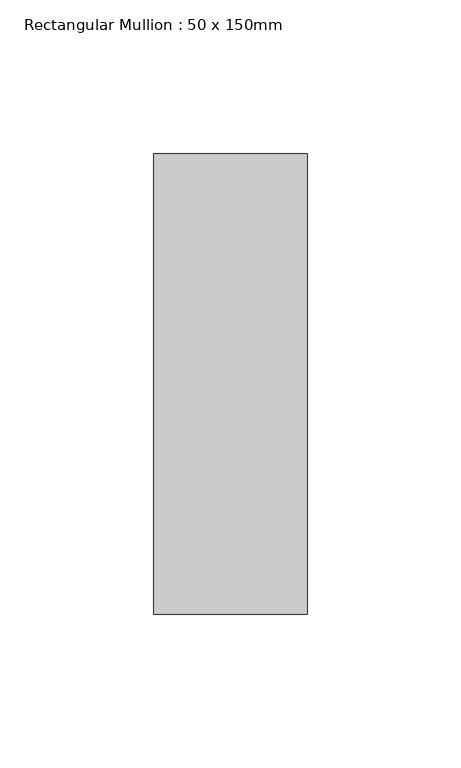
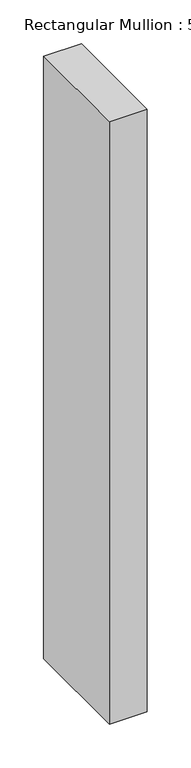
"""IFC4 building model written with IfcOpenShell, lengths in millimetres: member geometry, Rectangular Mullion : 50 x 150mm."""

from ifc_helpers import new_model, si_unit, frame, origin, place, context, project, spatial, polyline, outline, extrude, source, transform, mapped, element, save


def rectangular_mullion_50_x_150mm_ba57f92b(model_context):
    return source(origin(), model_context, "Body", "SweptSolid", [
        extrude(outline(polyline([(0.0, 75.0), (0.0, -75.0), (-50.0, -75.0), (-50.0, 75.0), (0.0, 75.0)])), frame((0.0, 0.0, -839.4), z_axis=(0.0, 0.0, 1.0), x_axis=(1.0, 0.0, 0.0)), (0.0, 0.0, 1.0), 839.4),
    ])


if __name__ == "__main__":
    model = new_model("IFC4")
    model_context = context("Model", 3, world=origin())
    ifc_project = project(units=[si_unit("LENGTHUNIT", "METRE", prefix="MILLI")], contexts=[model_context])
    site = spatial("IfcSite", under=ifc_project)
    building = spatial("IfcBuilding", under=site)
    placement = place(None, origin())
    rectangular_mullion_50_x_150mm_shape = rectangular_mullion_50_x_150mm_ba57f92b(model_context)
    element("IfcMember", 1, ObjectType="Rectangular Mullion : 50 x 150mm", at=placement, inside=building, context=model_context, shape_type="MappedRepresentation", body=[
        mapped(rectangular_mullion_50_x_150mm_shape, transform((0.0, 0.0, 0.0), x_axis=(1.0, 0.0, 0.0), y_axis=(0.0, 1.0, 0.0), z_axis=(0.0, 0.0, 1.0))),
    ])
    save(model, "model.ifc")
